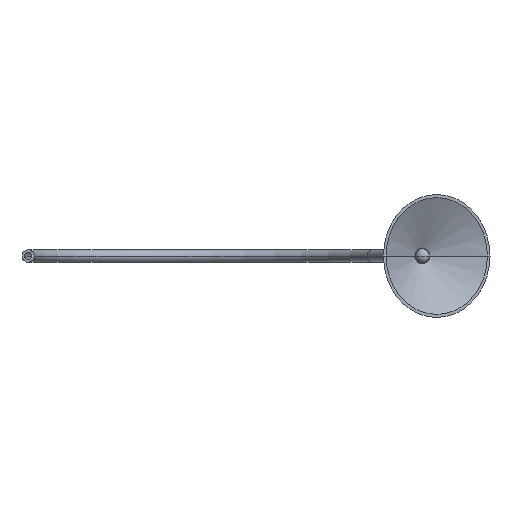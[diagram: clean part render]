
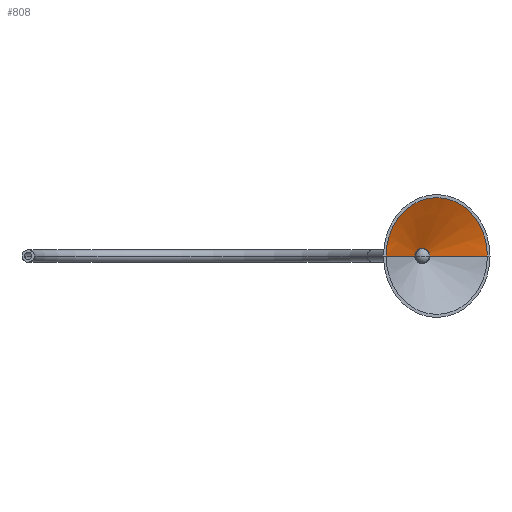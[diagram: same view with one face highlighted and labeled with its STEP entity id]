
A CAD part, front view. The second image highlights one B-rep face of the part: STEP entity #808.
In plain terms, the highlighted conical face has half-angle 60.255 degrees and reference radius 21.567 mm.
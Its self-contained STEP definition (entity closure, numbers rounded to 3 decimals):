
#672=CARTESIAN_POINT('',(265.673,1032.687,0.));
#673=DIRECTION('',(0.5,-0.866,0.));
#674=DIRECTION('',(0.866,0.5,0.));
#675=AXIS2_PLACEMENT_3D('',#672,#673,#674);
#682=CARTESIAN_POINT('',(256.292,1048.936,0.));
#683=DIRECTION('',(0.5,-0.866,0.));
#684=DIRECTION('',(0.866,0.5,0.));
#685=AXIS2_PLACEMENT_3D('',#682,#683,#684);
#692=DIRECTION('',(1.,0.004,0.));
#693=VECTOR('',#692,37.817);
#694=CARTESIAN_POINT('',(260.752,1051.511,0.));
#695=LINE('',#694,#693);
#696=DIRECTION('',(0.504,0.864,0.));
#697=VECTOR('',#696,37.817);
#698=CARTESIAN_POINT('',(232.778,1013.695,0.));
#699=LINE('',#698,#697);
#704=CARTESIAN_POINT('',(298.569,1051.679,0.));
#705=CARTESIAN_POINT('',(232.778,1013.695,0.));
#706=VERTEX_POINT('',#704);
#707=VERTEX_POINT('',#705);
#708=CARTESIAN_POINT('',(260.752,1051.511,0.));
#709=CARTESIAN_POINT('',(251.832,1046.361,0.));
#710=VERTEX_POINT('',#708);
#711=VERTEX_POINT('',#709);
#794=CARTESIAN_POINT('',(260.982,1040.811,0.));
#795=DIRECTION('',(0.5,-0.866,0.));
#796=DIRECTION('',(-0.866,-0.5,0.));
#797=AXIS2_PLACEMENT_3D('',#794,#795,#796);
#798=CONICAL_SURFACE('',#797,21.567,60.255);
#800=ORIENTED_EDGE('',*,*,#799,.T.);
#802=ORIENTED_EDGE('',*,*,#801,.F.);
#803=ORIENTED_EDGE('',*,*,#787,.F.);
#805=ORIENTED_EDGE('',*,*,#804,.F.);
#806=EDGE_LOOP('',(#800,#802,#803,#805));
#807=FACE_OUTER_BOUND('',#806,.F.);
#808=ADVANCED_FACE('',(#807),#798,.F.);
#676=CIRCLE('',#675,37.984);
#686=CIRCLE('',#685,5.15);
#787=EDGE_CURVE('',#706,#707,#676,.T.);
#799=EDGE_CURVE('',#710,#711,#686,.T.);
#801=EDGE_CURVE('',#707,#711,#699,.T.);
#804=EDGE_CURVE('',#710,#706,#695,.T.);
